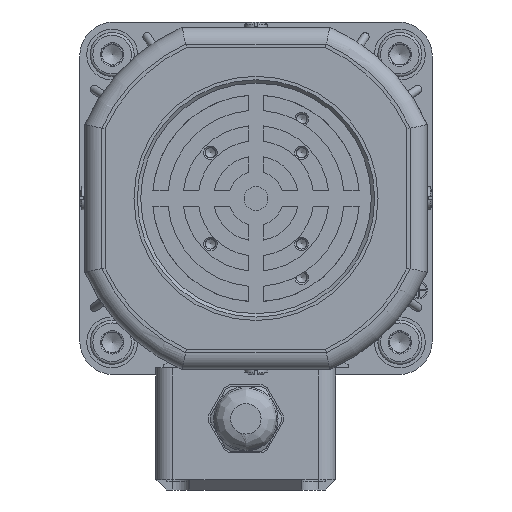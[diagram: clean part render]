
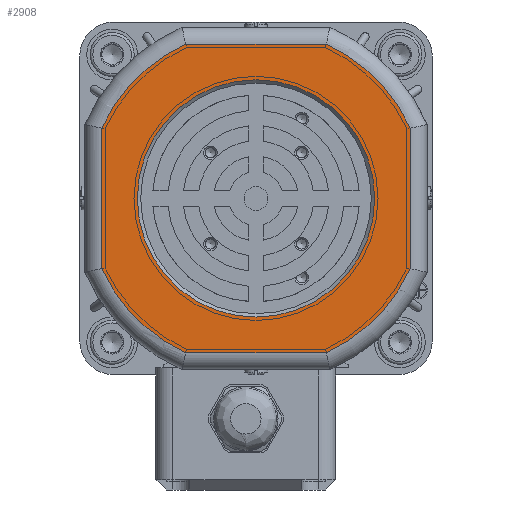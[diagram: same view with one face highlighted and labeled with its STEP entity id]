
A CAD part, left-side view. The second image highlights one B-rep face of the part: STEP entity #2908.
In plain terms, the highlighted planar face has unit normal (-1, 0, 0).
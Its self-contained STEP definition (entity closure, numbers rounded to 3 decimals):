
#1396=FACE_BOUND('',#5737,.T.);
#1397=FACE_BOUND('',#5738,.T.);
#2908=ADVANCED_FACE('',(#1396,#1397),#3919,.F.);
#3919=PLANE('',#22148);
#5737=EDGE_LOOP('',(#8881));
#5738=EDGE_LOOP('',(#8882,#8883,#8884,#8885,#8886,#8887,#8888,#8889));
#8881=ORIENTED_EDGE('',*,*,#15597,.T.);
#8882=ORIENTED_EDGE('',*,*,#15607,.T.);
#8883=ORIENTED_EDGE('',*,*,#15602,.T.);
#8884=ORIENTED_EDGE('',*,*,#15609,.T.);
#8885=ORIENTED_EDGE('',*,*,#15615,.T.);
#8886=ORIENTED_EDGE('',*,*,#15621,.T.);
#8887=ORIENTED_EDGE('',*,*,#15623,.T.);
#8888=ORIENTED_EDGE('',*,*,#15619,.T.);
#8889=ORIENTED_EDGE('',*,*,#15613,.T.);
#13330=VERTEX_POINT('',#31975);
#13335=VERTEX_POINT('',#31997);
#13336=VERTEX_POINT('',#31999);
#13338=VERTEX_POINT('',#32027);
#13341=VERTEX_POINT('',#32045);
#13342=VERTEX_POINT('',#32061);
#13345=VERTEX_POINT('',#32079);
#13346=VERTEX_POINT('',#32095);
#13349=VERTEX_POINT('',#32113);
#15597=EDGE_CURVE('',#13330,#13330,#20599,.T.);
#15602=EDGE_CURVE('',#13336,#13335,#20603,.T.);
#15607=EDGE_CURVE('',#13338,#13336,#18067,.T.);
#15609=EDGE_CURVE('',#13335,#13341,#18068,.T.);
#15613=EDGE_CURVE('',#13342,#13338,#20606,.T.);
#15615=EDGE_CURVE('',#13341,#13345,#20607,.T.);
#15619=EDGE_CURVE('',#13346,#13342,#18071,.T.);
#15621=EDGE_CURVE('',#13345,#13349,#18072,.T.);
#15623=EDGE_CURVE('',#13349,#13346,#20609,.T.);
#18067=LINE('',#32030,#19213);
#18068=LINE('',#32046,#19214);
#18071=LINE('',#32098,#19217);
#18072=LINE('',#32114,#19218);
#19213=VECTOR('',#24777,1.);
#19214=VECTOR('',#24780,1.);
#19217=VECTOR('',#24797,1.);
#19218=VECTOR('',#24800,1.);
#20599=CIRCLE('',#21886,35.);
#20603=CIRCLE('',#21892,50.);
#20606=CIRCLE('',#21898,50.);
#20607=CIRCLE('',#21900,50.);
#20609=CIRCLE('',#21905,50.);
#21886=AXIS2_PLACEMENT_3D('',#31974,#24758,#24759);
#21892=AXIS2_PLACEMENT_3D('',#31998,#24770,#24771);
#21898=AXIS2_PLACEMENT_3D('',#32064,#24786,#24787);
#21900=AXIS2_PLACEMENT_3D('',#32080,#24790,#24791);
#21905=AXIS2_PLACEMENT_3D('',#32117,#24804,#24805);
#22148=AXIS2_PLACEMENT_3D('',#32866,#25482,#25483);
#24758=DIRECTION('',(1.,0.,0.));
#24759=DIRECTION('',(0.,-1.,0.));
#24770=DIRECTION('',(-1.,0.,0.));
#24771=DIRECTION('',(0.,0.,1.));
#24777=DIRECTION('',(0.,-1.,0.));
#24780=DIRECTION('',(0.,0.,1.));
#24786=DIRECTION('',(-1.,0.,0.));
#24787=DIRECTION('',(0.,0.,1.));
#24790=DIRECTION('',(-1.,0.,0.));
#24791=DIRECTION('',(0.,0.,1.));
#24797=DIRECTION('',(0.,0.,-1.));
#24800=DIRECTION('',(0.,1.,0.));
#24804=DIRECTION('',(-1.,0.,0.));
#24805=DIRECTION('',(0.,0.,1.));
#25482=DIRECTION('',(1.,0.,0.));
#25483=DIRECTION('',(0.,0.,1.));
#31974=CARTESIAN_POINT('',(-227.8,-120.671,-58.491));
#31975=CARTESIAN_POINT('',(-227.8,-155.671,-58.491));
#31997=CARTESIAN_POINT('',(-227.8,-166.171,-79.221));
#31998=CARTESIAN_POINT('',(-227.8,-120.671,-58.491));
#31999=CARTESIAN_POINT('',(-227.8,-141.402,-103.991));
#32027=CARTESIAN_POINT('',(-227.8,-99.941,-103.991));
#32030=CARTESIAN_POINT('',(-227.8,-142.46,-103.991));
#32045=CARTESIAN_POINT('',(-227.8,-166.171,-37.76));
#32046=CARTESIAN_POINT('',(-227.8,-166.171,-36.702));
#32061=CARTESIAN_POINT('',(-227.8,-75.171,-79.221));
#32064=CARTESIAN_POINT('',(-227.8,-120.671,-58.491));
#32079=CARTESIAN_POINT('',(-227.8,-141.402,-12.991));
#32080=CARTESIAN_POINT('',(-227.8,-120.671,-58.491));
#32095=CARTESIAN_POINT('',(-227.8,-75.171,-37.76));
#32098=CARTESIAN_POINT('',(-227.8,-75.171,-80.28));
#32113=CARTESIAN_POINT('',(-227.8,-99.941,-12.991));
#32114=CARTESIAN_POINT('',(-227.8,-98.882,-12.991));
#32117=CARTESIAN_POINT('',(-227.8,-120.671,-58.491));
#32866=CARTESIAN_POINT('',(-227.8,-120.671,-58.491));
